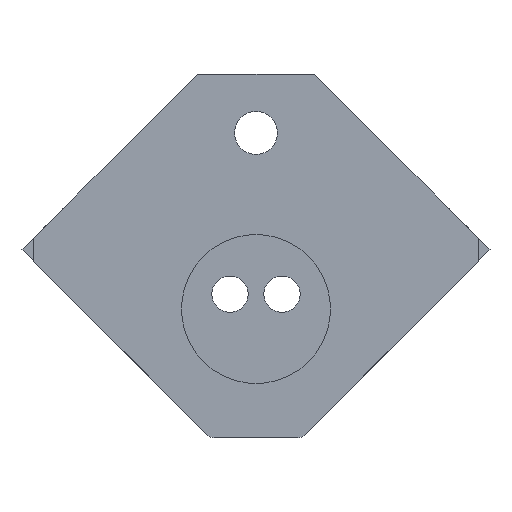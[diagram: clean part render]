
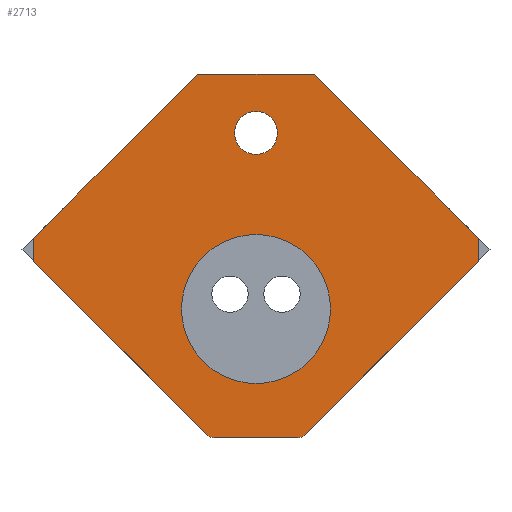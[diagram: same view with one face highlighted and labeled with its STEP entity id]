
A CAD part, front view. The second image highlights one B-rep face of the part: STEP entity #2713.
In plain terms, the highlighted planar face has unit normal (0, -1, 0).
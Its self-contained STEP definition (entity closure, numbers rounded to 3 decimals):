
#138 = CARTESIAN_POINT ( 'NONE',  ( 0., -97.5, 38.849 ) ) ;
#139 = DIRECTION ( 'NONE',  ( 0., 1., 0. ) ) ;
#140 = DIRECTION ( 'NONE',  ( -0.707, 0., 0.707 ) ) ;
#194 = CARTESIAN_POINT ( 'NONE',  ( 0., -97.5, 92.066 ) ) ;
#204 = DIRECTION ( 'NONE',  ( 0., 1., 0. ) ) ;
#205 = DIRECTION ( 'NONE',  ( -0.707, 0., 0.707 ) ) ;
#206 = PLANE ( 'NONE',  #2981 ) ;
#213 = CARTESIAN_POINT ( 'NONE',  ( -53.21, -97.5, 66.08 ) ) ;
#214 = DIRECTION ( 'NONE',  ( 0., -1., 0. ) ) ;
#215 = DIRECTION ( 'NONE',  ( 0., 0., -1. ) ) ;
#371 = LINE ( 'NONE', #372, #2847 ) ;
#372 = CARTESIAN_POINT ( 'NONE',  ( 0., -97.5, -14. ) ) ;
#373 = DIRECTION ( 'NONE',  ( -0.707, 0., -0.707 ) ) ;
#376 = CARTESIAN_POINT ( 'NONE',  ( 0., -97.5, 92.066 ) ) ;
#377 = DIRECTION ( 'NONE',  ( 0., 1., 0. ) ) ;
#378 = DIRECTION ( 'NONE',  ( -0.707, 0., 0.707 ) ) ;
#398 = LINE ( 'NONE', #399, #2858 ) ;
#399 = CARTESIAN_POINT ( 'NONE',  ( -70.711, -97.5, 56.711 ) ) ;
#400 = DIRECTION ( 'NONE',  ( 0.707, 0., 0.707 ) ) ;
#413 = LINE ( 'NONE', #414, #2865 ) ;
#414 = CARTESIAN_POINT ( 'NONE',  ( -70.711, -97.5, 56.711 ) ) ;
#415 = DIRECTION ( 'NONE',  ( -0.707, 0., 0.707 ) ) ;
#416 = LINE ( 'NONE', #417, #2866 ) ;
#417 = CARTESIAN_POINT ( 'NONE',  ( -67.175, -97.5, 56.711 ) ) ;
#418 = DIRECTION ( 'NONE',  ( 0., 0., -1. ) ) ;
#496 = CARTESIAN_POINT ( 'NONE',  ( 0., -97.5, 38.849 ) ) ;
#500 = LINE ( 'NONE', #501, #3009 ) ;
#501 = CARTESIAN_POINT ( 'NONE',  ( 70.711, -97.5, 109.744 ) ) ;
#502 = DIRECTION ( 'NONE',  ( -1., 0., 0. ) ) ;
#524 = DIRECTION ( 'NONE',  ( 0., 1., 0. ) ) ;
#525 = DIRECTION ( 'NONE',  ( -0.707, 0., 0.707 ) ) ;
#545 = LINE ( 'NONE', #546, #2778 ) ;
#546 = CARTESIAN_POINT ( 'NONE',  ( 67.175, -97.5, 56.711 ) ) ;
#547 = DIRECTION ( 'NONE',  ( 0., 0., 1. ) ) ;
#553 = LINE ( 'NONE', #554, #2793 ) ;
#554 = CARTESIAN_POINT ( 'NONE',  ( 0., -97.5, 127.421 ) ) ;
#555 = DIRECTION ( 'NONE',  ( 0.707, 0., -0.707 ) ) ;
#615 = VECTOR ( 'NONE', #1247, 1000. ) ;
#637 = AXIS2_PLACEMENT_3D ( 'NONE', #1230, #1587, #962 ) ;
#844 = AXIS2_PLACEMENT_3D ( 'NONE', #1218, #1408, #1497 ) ;
#906 = CARTESIAN_POINT ( 'NONE',  ( -12.55, -97.5, 0. ) ) ;
#962 = DIRECTION ( 'NONE',  ( 0., 0., -1. ) ) ;
#984 = CARTESIAN_POINT ( 'NONE',  ( -4.596, -97.5, 96.662 ) ) ;
#988 = CARTESIAN_POINT ( 'NONE',  ( -15.91, -97.5, 54.759 ) ) ;
#1018 = CARTESIAN_POINT ( 'NONE',  ( 4.596, -97.5, 87.47 ) ) ;
#1075 = VERTEX_POINT ( 'NONE', #1018 ) ;
#1151 = CARTESIAN_POINT ( 'NONE',  ( 15.91, -97.5, 22.939 ) ) ;
#1199 = CARTESIAN_POINT ( 'NONE',  ( -15.025, -97.5, 1.025 ) ) ;
#1218 = CARTESIAN_POINT ( 'NONE',  ( -12.55, -97.5, 3.5 ) ) ;
#1228 = VERTEX_POINT ( 'NONE', #984 ) ;
#1230 = CARTESIAN_POINT ( 'NONE',  ( 12.55, -97.5, 3.5 ) ) ;
#1235 = LINE ( 'NONE', #1244, #615 ) ;
#1244 = CARTESIAN_POINT ( 'NONE',  ( -12.55, -97.5, 0. ) ) ;
#1247 = DIRECTION ( 'NONE',  ( 1., 0., 0. ) ) ;
#1254 = CARTESIAN_POINT ( 'NONE',  ( -67.175, -97.5, 53.175 ) ) ;
#1263 = CARTESIAN_POINT ( 'NONE',  ( -67.175, -97.5, 60.246 ) ) ;
#1372 = CARTESIAN_POINT ( 'NONE',  ( 17.678, -97.5, 109.744 ) ) ;
#1406 = CARTESIAN_POINT ( 'NONE',  ( 12.55, -97.5, 0. ) ) ;
#1408 = DIRECTION ( 'NONE',  ( 0., -1., 0. ) ) ;
#1420 = VERTEX_POINT ( 'NONE', #1151 ) ;
#1495 = CARTESIAN_POINT ( 'NONE',  ( -17.678, -97.5, 109.744 ) ) ;
#1497 = DIRECTION ( 'NONE',  ( 0., 0., -1. ) ) ;
#1509 = CARTESIAN_POINT ( 'NONE',  ( 67.175, -97.5, 53.175 ) ) ;
#1532 = VERTEX_POINT ( 'NONE', #988 ) ;
#1552 = CARTESIAN_POINT ( 'NONE',  ( 67.175, -97.5, 60.246 ) ) ;
#1587 = DIRECTION ( 'NONE',  ( 0., -1., 0. ) ) ;
#1603 = CARTESIAN_POINT ( 'NONE',  ( 15.025, -97.5, 1.025 ) ) ;
#1642 = EDGE_LOOP ( 'NONE', ( #2177, #2081 ) ) ;
#1644 = EDGE_LOOP ( 'NONE', ( #2151, #2149 ) ) ;
#1710 = EDGE_LOOP ( 'NONE', ( #2276, #2235, #2209, #2223, #2165, #2043, #2201, #2155, #2153, #1936 ) ) ;
#1742 = VERTEX_POINT ( 'NONE', #1406 ) ;
#1743 = VERTEX_POINT ( 'NONE', #906 ) ;
#1833 = VERTEX_POINT ( 'NONE', #1199 ) ;
#1865 = VERTEX_POINT ( 'NONE', #1603 ) ;
#1879 = VERTEX_POINT ( 'NONE', #1254 ) ;
#1880 = VERTEX_POINT ( 'NONE', #1263 ) ;
#1881 = VERTEX_POINT ( 'NONE', #1495 ) ;
#1883 = VERTEX_POINT ( 'NONE', #1372 ) ;
#1885 = VERTEX_POINT ( 'NONE', #1552 ) ;
#1886 = VERTEX_POINT ( 'NONE', #1509 ) ;
#1936 = ORIENTED_EDGE ( 'NONE', *, *, #3029, .T. ) ;
#2043 = ORIENTED_EDGE ( 'NONE', *, *, #3072, .T. ) ;
#2081 = ORIENTED_EDGE ( 'NONE', *, *, #2688, .T. ) ;
#2149 = ORIENTED_EDGE ( 'NONE', *, *, #2710, .T. ) ;
#2151 = ORIENTED_EDGE ( 'NONE', *, *, #3016, .T. ) ;
#2153 = ORIENTED_EDGE ( 'NONE', *, *, #3023, .F. ) ;
#2155 = ORIENTED_EDGE ( 'NONE', *, *, #3057, .T. ) ;
#2165 = ORIENTED_EDGE ( 'NONE', *, *, #3014, .F. ) ;
#2177 = ORIENTED_EDGE ( 'NONE', *, *, #3065, .T. ) ;
#2201 = ORIENTED_EDGE ( 'NONE', *, *, #3075, .F. ) ;
#2209 = ORIENTED_EDGE ( 'NONE', *, *, #2632, .T. ) ;
#2223 = ORIENTED_EDGE ( 'NONE', *, *, #2621, .T. ) ;
#2235 = ORIENTED_EDGE ( 'NONE', *, *, #2604, .T. ) ;
#2276 = ORIENTED_EDGE ( 'NONE', *, *, #3028, .F. ) ;
#2392 = CIRCLE ( 'NONE', #2854, 6.5 ) ;
#2406 = CIRCLE ( 'NONE', #2969, 6.5 ) ;
#2411 = CIRCLE ( 'NONE', #2946, 22.5 ) ;
#2430 = CIRCLE ( 'NONE', #2916, 22.5 ) ;
#2497 = CIRCLE ( 'NONE', #844, 3.5 ) ;
#2587 = CIRCLE ( 'NONE', #637, 3.5 ) ;
#2604 = EDGE_CURVE ( 'NONE', #1833, #1743, #2497, .T. ) ;
#2621 = EDGE_CURVE ( 'NONE', #1742, #1865, #2587, .T. ) ;
#2632 = EDGE_CURVE ( 'NONE', #1743, #1742, #1235, .T. ) ;
#2688 = EDGE_CURVE ( 'NONE', #1420, #1532, #2411, .T. ) ;
#2710 = EDGE_CURVE ( 'NONE', #1075, #1228, #2406, .T. ) ;
#2713 = ADVANCED_FACE ( 'NONE', ( #2983, #2977, #2976 ), #206, .T. ) ;
#2778 = VECTOR ( 'NONE', #547, 1000. ) ;
#2793 = VECTOR ( 'NONE', #555, 1000. ) ;
#2847 = VECTOR ( 'NONE', #373, 1000. ) ;
#2854 = AXIS2_PLACEMENT_3D ( 'NONE', #376, #377, #378 ) ;
#2858 = VECTOR ( 'NONE', #400, 1000. ) ;
#2865 = VECTOR ( 'NONE', #415, 1000. ) ;
#2866 = VECTOR ( 'NONE', #418, 1000. ) ;
#2916 = AXIS2_PLACEMENT_3D ( 'NONE', #496, #524, #525 ) ;
#2946 = AXIS2_PLACEMENT_3D ( 'NONE', #138, #139, #140 ) ;
#2969 = AXIS2_PLACEMENT_3D ( 'NONE', #194, #204, #205 ) ;
#2976 = FACE_BOUND ( 'NONE', #1644, .T. ) ;
#2977 = FACE_BOUND ( 'NONE', #1642, .T. ) ;
#2981 = AXIS2_PLACEMENT_3D ( 'NONE', #213, #214, #215 ) ;
#2983 = FACE_OUTER_BOUND ( 'NONE', #1710, .T. ) ;
#3009 = VECTOR ( 'NONE', #502, 1000. ) ;
#3014 = EDGE_CURVE ( 'NONE', #1886, #1865, #371, .T. ) ;
#3016 = EDGE_CURVE ( 'NONE', #1228, #1075, #2392, .T. ) ;
#3023 = EDGE_CURVE ( 'NONE', #1880, #1881, #398, .T. ) ;
#3028 = EDGE_CURVE ( 'NONE', #1833, #1879, #413, .T. ) ;
#3029 = EDGE_CURVE ( 'NONE', #1880, #1879, #416, .T. ) ;
#3057 = EDGE_CURVE ( 'NONE', #1883, #1881, #500, .T. ) ;
#3065 = EDGE_CURVE ( 'NONE', #1532, #1420, #2430, .T. ) ;
#3072 = EDGE_CURVE ( 'NONE', #1886, #1885, #545, .T. ) ;
#3075 = EDGE_CURVE ( 'NONE', #1883, #1885, #553, .T. ) ;
